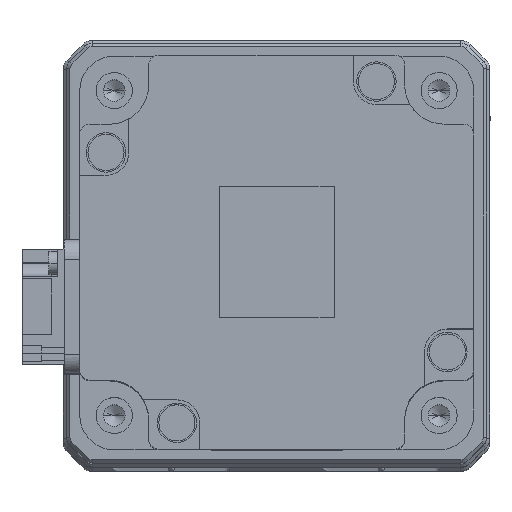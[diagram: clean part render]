
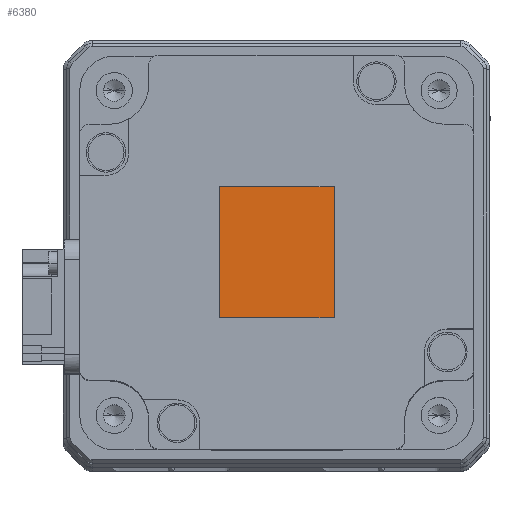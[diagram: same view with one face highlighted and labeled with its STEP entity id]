
A CAD part, top view. The second image highlights one B-rep face of the part: STEP entity #6380.
In plain terms, the highlighted planar face has unit normal (0, 0, 1) as drawn and (0, 0, -1) by its records, which use the part's own axes.
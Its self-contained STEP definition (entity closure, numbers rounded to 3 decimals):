
#285 = AXIS2_PLACEMENT_3D ( 'NONE', #22753, #12362, #30563 ) ;
#1085 = CARTESIAN_POINT ( 'NONE',  ( 10., 8.75, -80.1 ) ) ;
#2527 = DIRECTION ( 'NONE',  ( 0., 1., 0. ) ) ;
#3884 = CARTESIAN_POINT ( 'NONE',  ( 10., 8.75, -80.1 ) ) ;
#4068 = EDGE_CURVE ( 'NONE', #13838, #24100, #18106, .T. ) ;
#5125 = EDGE_LOOP ( 'NONE', ( #6361, #22073, #29969, #31124 ) ) ;
#5461 = CARTESIAN_POINT ( 'NONE',  ( 10., 8.75, -80.1 ) ) ;
#5967 = EDGE_CURVE ( 'NONE', #8860, #30222, #24110, .T. ) ;
#6361 = ORIENTED_EDGE ( 'NONE', *, *, #5967, .T. ) ;
#6380 = ADVANCED_FACE ( 'NONE', ( #11865 ), #9749, .T. ) ;
#7294 = CARTESIAN_POINT ( 'NONE',  ( -10., -8.75, -80.1 ) ) ;
#8860 = VERTEX_POINT ( 'NONE', #7294 ) ;
#9749 = PLANE ( 'NONE',  #285 ) ;
#9788 = VECTOR ( 'NONE', #24752, 1000. ) ;
#10602 = LINE ( 'NONE', #26358, #31332 ) ;
#10612 = LINE ( 'NONE', #3884, #9788 ) ;
#11865 = FACE_OUTER_BOUND ( 'NONE', #5125, .T. ) ;
#12362 = DIRECTION ( 'NONE',  ( 0., 0., -1. ) ) ;
#13534 = EDGE_CURVE ( 'NONE', #30222, #13838, #10612, .T. ) ;
#13838 = VERTEX_POINT ( 'NONE', #1085 ) ;
#18085 = CARTESIAN_POINT ( 'NONE',  ( -10., 8.75, -80.1 ) ) ;
#18106 = LINE ( 'NONE', #5461, #24211 ) ;
#21057 = DIRECTION ( 'NONE',  ( 0., -1., 0. ) ) ;
#21288 = DIRECTION ( 'NONE',  ( -1., 0., 0. ) ) ;
#22073 = ORIENTED_EDGE ( 'NONE', *, *, #13534, .T. ) ;
#22753 = CARTESIAN_POINT ( 'NONE',  ( 10., -8.75, -80.1 ) ) ;
#24100 = VERTEX_POINT ( 'NONE', #28308 ) ;
#24110 = LINE ( 'NONE', #18085, #31811 ) ;
#24211 = VECTOR ( 'NONE', #21057, 1000. ) ;
#24752 = DIRECTION ( 'NONE',  ( 1., 0., 0. ) ) ;
#26358 = CARTESIAN_POINT ( 'NONE',  ( 10., -8.75, -80.1 ) ) ;
#28308 = CARTESIAN_POINT ( 'NONE',  ( 10., -8.75, -80.1 ) ) ;
#28374 = EDGE_CURVE ( 'NONE', #24100, #8860, #10602, .T. ) ;
#29969 = ORIENTED_EDGE ( 'NONE', *, *, #4068, .T. ) ;
#30222 = VERTEX_POINT ( 'NONE', #32369 ) ;
#30563 = DIRECTION ( 'NONE',  ( -1., 0., 0. ) ) ;
#31124 = ORIENTED_EDGE ( 'NONE', *, *, #28374, .T. ) ;
#31332 = VECTOR ( 'NONE', #21288, 1000. ) ;
#31811 = VECTOR ( 'NONE', #2527, 1000. ) ;
#32369 = CARTESIAN_POINT ( 'NONE',  ( -10., 8.75, -80.1 ) ) ;
